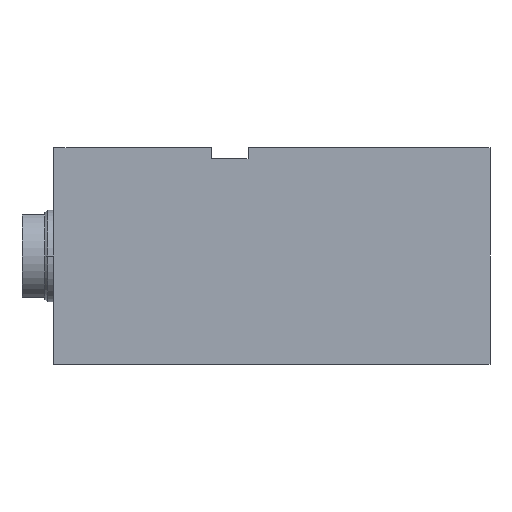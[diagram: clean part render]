
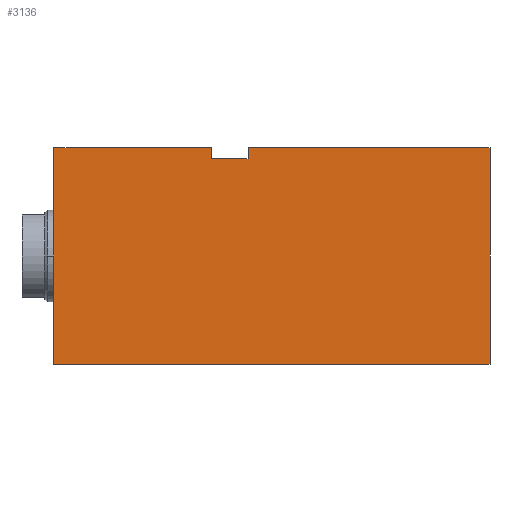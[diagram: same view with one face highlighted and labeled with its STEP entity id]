
A CAD part, left-side view. The second image highlights one B-rep face of the part: STEP entity #3136.
In plain terms, the highlighted planar face has unit normal (-1, 0, 0).
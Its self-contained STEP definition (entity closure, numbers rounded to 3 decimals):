
#68 = ORIENTED_EDGE ( 'NONE', *, *, #2423, .T. ) ;
#88 = CARTESIAN_POINT ( 'NONE',  ( -62.5, 91., -47.5 ) ) ;
#144 = LINE ( 'NONE', #2084, #805 ) ;
#173 = CARTESIAN_POINT ( 'NONE',  ( -62.5, 106., 42.5 ) ) ;
#306 = VERTEX_POINT ( 'NONE', #173 ) ;
#348 = LINE ( 'NONE', #2956, #2955 ) ;
#389 = VECTOR ( 'NONE', #1564, 1000. ) ;
#429 = VECTOR ( 'NONE', #2639, 1000. ) ;
#568 = DIRECTION ( 'NONE',  ( 0., 0., -1. ) ) ;
#613 = CARTESIAN_POINT ( 'NONE',  ( -62.5, 0., -47.5 ) ) ;
#663 = ORIENTED_EDGE ( 'NONE', *, *, #1250, .T. ) ;
#694 = EDGE_CURVE ( 'NONE', #2636, #2502, #1087, .T. ) ;
#698 = AXIS2_PLACEMENT_3D ( 'NONE', #2838, #2066, #568 ) ;
#721 = EDGE_CURVE ( 'NONE', #2502, #2509, #348, .T. ) ;
#745 = CARTESIAN_POINT ( 'NONE',  ( -62.5, 191., 47.5 ) ) ;
#805 = VECTOR ( 'NONE', #1321, 1000. ) ;
#894 = FACE_OUTER_BOUND ( 'NONE', #2174, .T. ) ;
#924 = VECTOR ( 'NONE', #928, 1000. ) ;
#928 = DIRECTION ( 'NONE',  ( 0., -1., 0. ) ) ;
#1021 = EDGE_CURVE ( 'NONE', #1916, #1064, #1041, .T. ) ;
#1041 = LINE ( 'NONE', #1291, #389 ) ;
#1064 = VERTEX_POINT ( 'NONE', #1845 ) ;
#1087 = LINE ( 'NONE', #2053, #429 ) ;
#1109 = CARTESIAN_POINT ( 'NONE',  ( -62.5, 106., 47.5 ) ) ;
#1120 = CARTESIAN_POINT ( 'NONE',  ( -62.5, 106., 42.5 ) ) ;
#1211 = CARTESIAN_POINT ( 'NONE',  ( -62.5, 91., 47.5 ) ) ;
#1250 = EDGE_CURVE ( 'NONE', #2636, #1916, #2494, .T. ) ;
#1291 = CARTESIAN_POINT ( 'NONE',  ( -62.5, 0., -47.5 ) ) ;
#1314 = ORIENTED_EDGE ( 'NONE', *, *, #694, .F. ) ;
#1321 = DIRECTION ( 'NONE',  ( 0., 0., 1. ) ) ;
#1372 = CARTESIAN_POINT ( 'NONE',  ( -62.5, 122., 42.5 ) ) ;
#1395 = ORIENTED_EDGE ( 'NONE', *, *, #2927, .F. ) ;
#1451 = LINE ( 'NONE', #1211, #2820 ) ;
#1564 = DIRECTION ( 'NONE',  ( 0., 0., 1. ) ) ;
#1721 = DIRECTION ( 'NONE',  ( 0., -1., 0. ) ) ;
#1804 = PLANE ( 'NONE',  #698 ) ;
#1831 = ORIENTED_EDGE ( 'NONE', *, *, #1021, .T. ) ;
#1845 = CARTESIAN_POINT ( 'NONE',  ( -62.5, 0., 47.5 ) ) ;
#1906 = ORIENTED_EDGE ( 'NONE', *, *, #3243, .F. ) ;
#1916 = VERTEX_POINT ( 'NONE', #613 ) ;
#1980 = CARTESIAN_POINT ( 'NONE',  ( -62.5, 122., 47.5 ) ) ;
#2053 = CARTESIAN_POINT ( 'NONE',  ( -62.5, 191., -47.5 ) ) ;
#2066 = DIRECTION ( 'NONE',  ( 1., 0., 0. ) ) ;
#2084 = CARTESIAN_POINT ( 'NONE',  ( -62.5, 122., 42.5 ) ) ;
#2108 = CARTESIAN_POINT ( 'NONE',  ( -62.5, 122., 42.5 ) ) ;
#2145 = DIRECTION ( 'NONE',  ( 0., -1., 0. ) ) ;
#2174 = EDGE_LOOP ( 'NONE', ( #1395, #2751, #1906, #68, #2677, #1314, #663, #1831 ) ) ;
#2347 = LINE ( 'NONE', #1372, #3023 ) ;
#2423 = EDGE_CURVE ( 'NONE', #2836, #2509, #144, .T. ) ;
#2494 = LINE ( 'NONE', #88, #924 ) ;
#2502 = VERTEX_POINT ( 'NONE', #745 ) ;
#2509 = VERTEX_POINT ( 'NONE', #1980 ) ;
#2581 = LINE ( 'NONE', #1120, #2669 ) ;
#2636 = VERTEX_POINT ( 'NONE', #2806 ) ;
#2639 = DIRECTION ( 'NONE',  ( 0., 0., 1. ) ) ;
#2669 = VECTOR ( 'NONE', #2895, 1000. ) ;
#2677 = ORIENTED_EDGE ( 'NONE', *, *, #721, .F. ) ;
#2751 = ORIENTED_EDGE ( 'NONE', *, *, #3192, .F. ) ;
#2806 = CARTESIAN_POINT ( 'NONE',  ( -62.5, 191., -47.5 ) ) ;
#2820 = VECTOR ( 'NONE', #1721, 1000. ) ;
#2836 = VERTEX_POINT ( 'NONE', #2108 ) ;
#2838 = CARTESIAN_POINT ( 'NONE',  ( -62.5, 91., -47.5 ) ) ;
#2895 = DIRECTION ( 'NONE',  ( 0., 0., 1. ) ) ;
#2927 = EDGE_CURVE ( 'NONE', #3180, #1064, #1451, .T. ) ;
#2955 = VECTOR ( 'NONE', #3119, 1000. ) ;
#2956 = CARTESIAN_POINT ( 'NONE',  ( -62.5, 91., 47.5 ) ) ;
#3023 = VECTOR ( 'NONE', #2145, 1000. ) ;
#3119 = DIRECTION ( 'NONE',  ( 0., -1., 0. ) ) ;
#3136 = ADVANCED_FACE ( 'NONE', ( #894 ), #1804, .F. ) ;
#3180 = VERTEX_POINT ( 'NONE', #1109 ) ;
#3192 = EDGE_CURVE ( 'NONE', #306, #3180, #2581, .T. ) ;
#3243 = EDGE_CURVE ( 'NONE', #2836, #306, #2347, .T. ) ;
